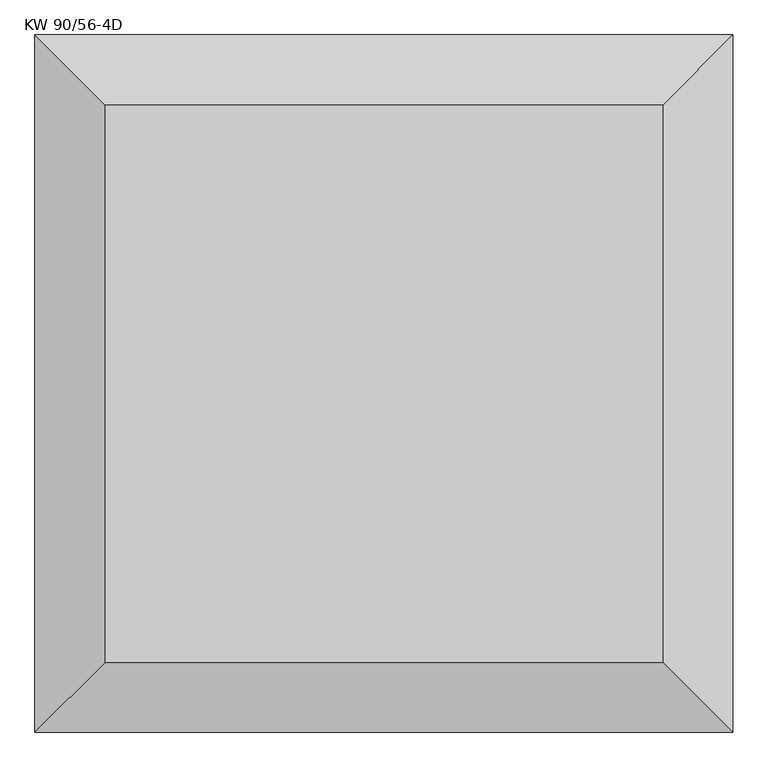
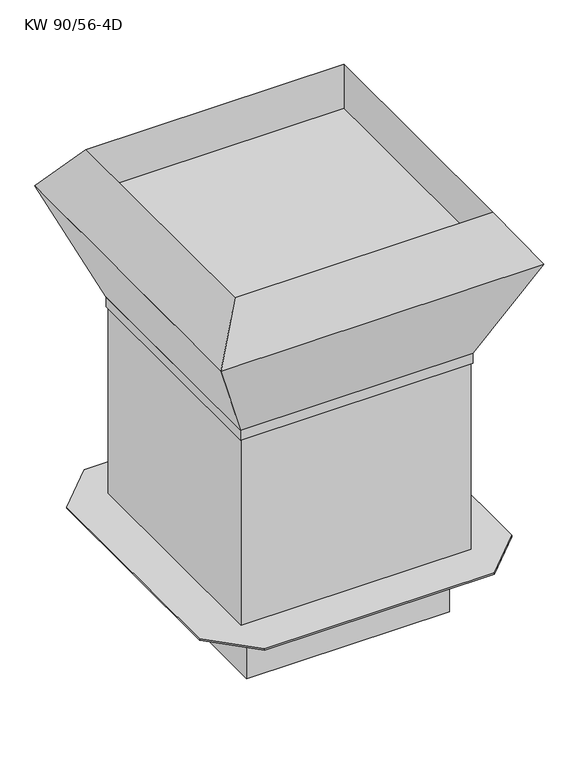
"""IFC4 building model written with IfcOpenShell, lengths in millimetres: proxy geometry, KORF_Вентилятор_Вытяжной_Крышный_KW : KW 90/56-4D."""

from ifc_helpers import new_model, si_unit, frame, origin, place, context, project, spatial, polyline, outline, extrude, faceted_brep, source, transform, mapped, element, save


def kw_90_56_4d_96e68f79(model_context):
    return source(origin(), model_context, "Body", "SolidModel", [
        faceted_brep([(392.5, 415.0, -1.0), (392.5, 392.5, -1.0), (-392.5, 392.5, -1.0), (-392.5, 415.0, -1.0), (392.5, -392.5, -1.0), (392.5, -415.0, -1.0), (-392.5, -415.0, -1.0), (-392.5, -392.5, -1.0), (-392.5, 415.0, 0.0), (392.5, 415.0, 0.0), (-392.5, 392.5, 0.0), (392.5, 392.5, 0.0), (-392.5, -415.0, 0.0), (-392.5, -392.5, 0.0), (392.5, -415.0, 0.0), (392.5, -392.5, 0.0), (-416.5, 392.5, 0.0), (-416.5, -392.5, 0.0), (415.0, -392.5, 0.0), (415.0, 392.5, 0.0), (391.0, 391.0, 0.0), (391.0, -391.0, 0.0), (-391.0, -391.0, 0.0), (-391.0, 391.0, 0.0), (-416.5, 392.5, -1.0), (-416.5, -392.5, -1.0), (415.0, -392.5, -1.0), (415.0, 392.5, -1.0), (392.5, -392.5, -264.0), (-392.5, -392.5, -264.0), (-392.5, 392.5, -264.0), (392.5, 392.5, -264.0), (391.0, 391.0, -264.0), (-391.0, 391.0, -264.0), (-391.0, -391.0, -264.0), (391.0, -391.0, -264.0)], [[[0, 1, 2, 3]], [[4, 5, 6, 7]], [[0, 3, 8, 9]], [[3, 2, 10, 8]], [[1, 0, 9, 11]], [[7, 6, 12, 13]], [[6, 5, 14, 12]], [[5, 4, 15, 14]], [[16, 17, 13, 12, 14, 15, 18, 19, 11, 9, 8, 10], [20, 21, 22, 23]], [[24, 2, 7, 25]], [[26, 4, 1, 27]], [[17, 16, 24, 25]], [[13, 17, 25, 7]], [[16, 10, 2, 24]], [[19, 18, 26, 27]], [[11, 19, 27, 1]], [[18, 15, 4, 26]], [[28, 29, 30, 31], [32, 33, 34, 35]], [[28, 31, 1, 4]], [[31, 30, 2, 1]], [[30, 29, 7, 2]], [[29, 28, 4, 7]], [[21, 20, 32, 35]], [[22, 21, 35, 34]], [[23, 22, 34, 33]], [[20, 23, 33, 32]]]),
        faceted_brep([(445.0, 445.0, 807.0), (-445.0, 445.0, 807.0), (-445.0, -445.0, 807.0), (445.0, -445.0, 807.0), (445.0, 605.0, 0.0), (605.0, 445.0, 0.0), (605.0, -445.0, 0.0), (445.0, -605.0, 0.0), (-445.0, -605.0, 0.0), (-605.0, -445.0, 0.0), (-605.0, 445.0, 0.0), (-445.0, 605.0, 0.0), (445.0, 445.0, 5.0), (-445.0, 445.0, 5.0), (-445.0, -445.0, 5.0), (445.0, -445.0, 5.0), (445.0, 605.0, 5.0), (-445.0, 605.0, 5.0), (-605.0, 445.0, 5.0), (-605.0, -445.0, 5.0), (-445.0, -605.0, 5.0), (445.0, -605.0, 5.0), (605.0, -445.0, 5.0), (605.0, 445.0, 5.0)], [[[0, 1, 2, 3]], [[4, 5, 6, 7, 8, 9, 10, 11]], [[1, 0, 12, 13]], [[2, 1, 13, 14]], [[3, 2, 14, 15]], [[0, 3, 15, 12]], [[16, 17, 18, 19, 20, 21, 22, 23], [13, 12, 15, 14]], [[17, 16, 4, 11]], [[18, 17, 11, 10]], [[19, 18, 10, 9]], [[20, 19, 9, 8]], [[21, 20, 8, 7]], [[22, 21, 7, 6]], [[23, 22, 6, 5]], [[16, 23, 5, 4]]]),
        faceted_brep([(625.0, 625.0, 1216.5), (625.0, -625.0, 1216.5), (-625.0, -625.0, 1216.5), (-625.0, 625.0, 1216.5), (500.0, 500.0, 1216.5), (-500.0, 500.0, 1216.5), (-500.0, -500.0, 1216.5), (500.0, -500.0, 1216.5), (-500.0, 500.0, 1397.0), (500.0, 500.0, 1397.0), (-500.0, -500.0, 1397.0), (500.0, -500.0, 1397.0)], [[[0, 1, 2, 3], [4, 5, 6, 7]], [[0, 3, 8, 9]], [[3, 2, 10, 8]], [[2, 1, 11, 10]], [[1, 0, 9, 11]], [[8, 5, 4, 9]], [[5, 8, 10, 6]], [[6, 10, 11, 7]], [[9, 4, 7, 11]]]),
        faceted_brep([(625.0, 625.0, 1216.5), (-625.0, 625.0, 1216.5), (-625.0, -625.0, 1216.5), (625.0, -625.0, 1216.5), (450.0, 450.0, 807.0), (450.0, -450.0, 807.0), (-450.0, -450.0, 807.0), (-450.0, 450.0, 807.0)], [[[0, 1, 2, 3]], [[4, 5, 6, 7]], [[4, 7, 1, 0]], [[7, 6, 2, 1]], [[6, 5, 3, 2]], [[5, 4, 0, 3]]]),
        extrude(outline(polyline([(450.0, 450.0), (450.0, -450.0), (-450.0, -450.0), (-450.0, 450.0), (450.0, 450.0)]), holes=[polyline([(448.0, 448.0), (-448.0, 448.0), (-448.0, -448.0), (448.0, -448.0), (448.0, 448.0)])]), frame((0.0, 0.0, 767.0), z_axis=(0.0, 0.0, 1.0), x_axis=(1.0, 0.0, 0.0)), (0.0, 0.0, 1.0), 40.0),
    ])


if __name__ == "__main__":
    model = new_model("IFC4")
    model_context = context("Model", 3, world=origin())
    ifc_project = project(units=[si_unit("LENGTHUNIT", "METRE", prefix="MILLI")], contexts=[model_context])
    site = spatial("IfcSite", under=ifc_project)
    building = spatial("IfcBuilding", under=site)
    placement = place(None, origin())
    kw_90_56_4d_shape = kw_90_56_4d_96e68f79(model_context)
    element("IfcBuildingElementProxy", 1, Name="KORF_Вентилятор_Вытяжной_Крышный_KW : KW 90/56-4D", ObjectType="KORF_Вентилятор_Вытяжной_Крышный_KW : KW 90/56-4D", at=placement, inside=building, context=model_context, shape_type="MappedRepresentation", body=[
        mapped(kw_90_56_4d_shape, transform((0.0, 0.0, 0.0), x_axis=(1.0, 0.0, 0.0), y_axis=(0.0, 1.0, 0.0), z_axis=(0.0, 0.0, 1.0))),
    ])
    save(model, "model.ifc")
